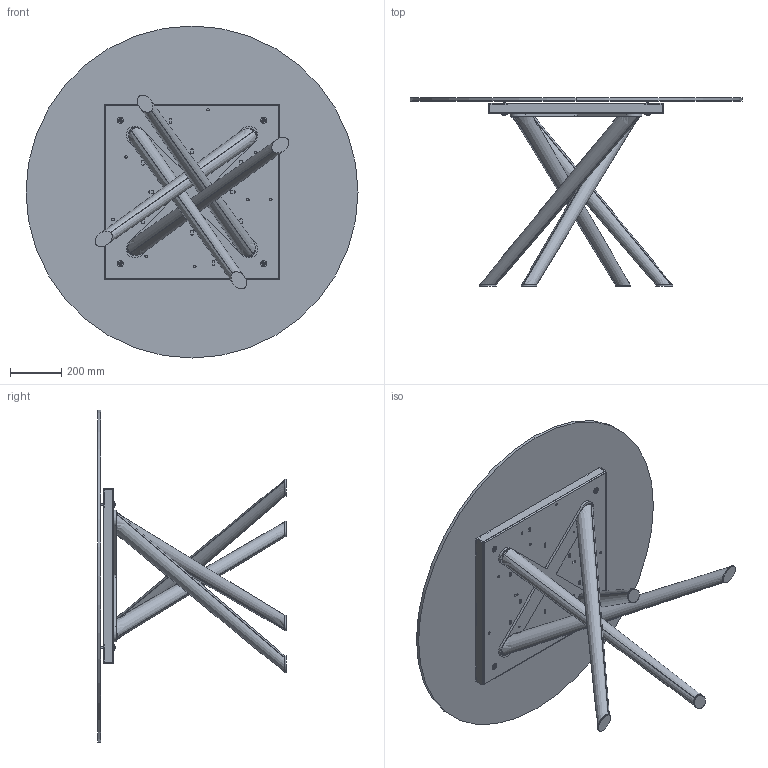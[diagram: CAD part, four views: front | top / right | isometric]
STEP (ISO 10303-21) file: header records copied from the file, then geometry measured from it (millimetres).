
FILE_DESCRIPTION (( 'STEP AP203' ), '1' );
FILE_NAME ('BA05G.STEP', '2024-08-08T06:40:42', ( '' ), ( '' ), 'SwSTEP 2.0', 'SolidWorks 2022', '' );
FILE_SCHEMA (( 'CONFIG_CONTROL_DESIGN' ));
Length unit declared in the file: millimetre
Products named in the file (12): BAB000000_01-00-Croce Superiore baly; M8xXXmm_M8x55mm; rondella M8_8X24; COLLO TELAIO UNIVERSALE TTAV0801 CON FERRAMENTA_MTG TOP LEGNO-MARMO-KING; BA05G; C1XCRMXX-00-piani Rotondi Cristallo_C05 D.130cm; BAB000000-00-BALY BASE GREZZA; BAB000000_02-00-basamento pali conificati; TTAV0801 TELAIO UNIVERSALE TONDO-PIASTRINA; TTAV0801-02-TELAIO UNIVERSALE TONDO-VASSOIO; Parte5^BAB000000-00-BALY BASE GREZZA; TTAV0801-02-TELAIO UNIVERSALE TONDO
Assembly tree (20 placements, depth 4):
  BA05G
    C1XCRMXX-00-piani Rotondi Cristallo_C05 D.130cm
    BAB000000-00-BALY BASE GREZZA
      BAB000000_01-00-Croce Superiore baly
      BAB000000_02-00-basamento pali conificati
      Parte5^BAB000000-00-BALY BASE GREZZA
    COLLO TELAIO UNIVERSALE TTAV0801 CON FERRAMENTA_MTG TOP LEGNO-MARMO-KING
      TTAV0801-02-TELAIO UNIVERSALE TONDO
        TTAV0801-02-TELAIO UNIVERSALE TONDO-VASSOIO
        TTAV0801 TELAIO UNIVERSALE TONDO-PIASTRINA  x4
      rondella M8_8X24  x4
      M8xXXmm_M8x55mm  x4
Bounding box: 1300 x 737 x 1300 mm (x, y, z)
Volume: 20605615.1 mm3; surface area: 5516529.2 mm2
Topology: 23 solids, 23 shells, 685 faces, 1761 edges, 1118 vertices
Faces by surface type: plane 310, cylinder 259, cone 60, torus 48, bspline 8
Entity records: 16457 total; most frequent: CARTESIAN_POINT 4070, DIRECTION 2299, ORIENTED_EDGE 2252, EDGE_CURVE 1126, AXIS2_PLACEMENT_3D 811, VERTEX_POINT 728, VECTOR 677, LINE 677
